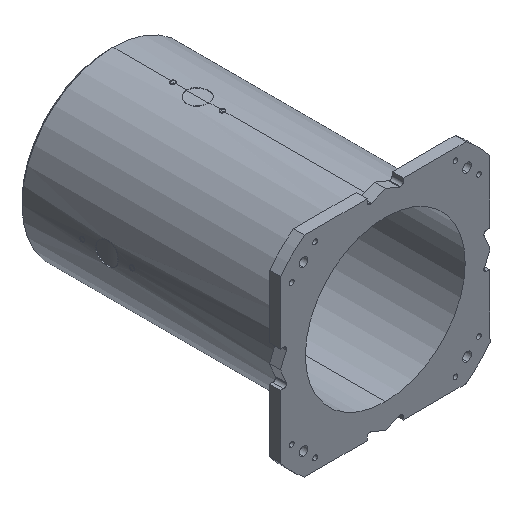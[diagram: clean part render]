
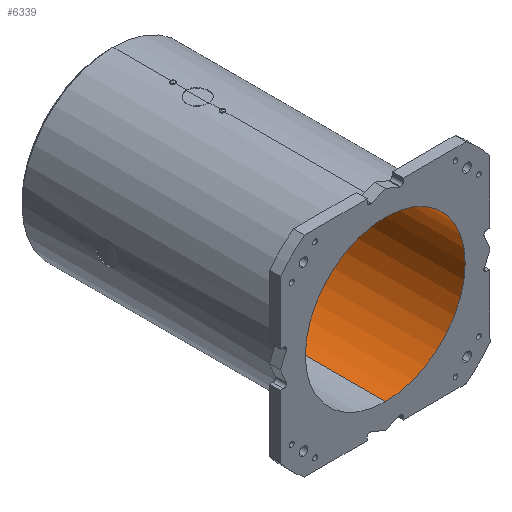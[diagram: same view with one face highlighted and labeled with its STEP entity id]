
A CAD part, isometric view. The second image highlights one B-rep face of the part: STEP entity #6339.
In plain terms, the highlighted cylindrical face has radius 145 mm (diameter 290 mm), a partial arc.
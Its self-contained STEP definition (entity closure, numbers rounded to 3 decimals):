
#155 = DIRECTION ( 'NONE',  ( 0., 1., 0. ) ) ;
#903 = LINE ( 'NONE', #1549, #3300 ) ;
#1008 = VERTEX_POINT ( 'NONE', #4379 ) ;
#1400 = ORIENTED_EDGE ( 'NONE', *, *, #6282, .T. ) ;
#1520 = VERTEX_POINT ( 'NONE', #8229 ) ;
#1549 = CARTESIAN_POINT ( 'NONE',  ( 0., 0., -145. ) ) ;
#2179 = CARTESIAN_POINT ( 'NONE',  ( 0., 482., 145. ) ) ;
#2633 = DIRECTION ( 'NONE',  ( 0., 0., 1. ) ) ;
#2685 = CARTESIAN_POINT ( 'NONE',  ( 0., 0., 0. ) ) ;
#3300 = VECTOR ( 'NONE', #8366, 1000. ) ;
#3434 = FACE_OUTER_BOUND ( 'NONE', #5997, .T. ) ;
#3755 = VECTOR ( 'NONE', #4783, 1000. ) ;
#3981 = CARTESIAN_POINT ( 'NONE',  ( 0., 0., 145. ) ) ;
#4094 = AXIS2_PLACEMENT_3D ( 'NONE', #4201, #7958, #2633 ) ;
#4201 = CARTESIAN_POINT ( 'NONE',  ( 0., 482., 0. ) ) ;
#4248 = DIRECTION ( 'NONE',  ( 0., 1., 0. ) ) ;
#4379 = CARTESIAN_POINT ( 'NONE',  ( 0., 0., 145. ) ) ;
#4783 = DIRECTION ( 'NONE',  ( 0., 1., 0. ) ) ;
#5111 = CIRCLE ( 'NONE', #5755, 145. ) ;
#5577 = EDGE_CURVE ( 'NONE', #1008, #6515, #9226, .T. ) ;
#5754 = DIRECTION ( 'NONE',  ( 0., 0., 1. ) ) ;
#5755 = AXIS2_PLACEMENT_3D ( 'NONE', #7021, #155, #9290 ) ;
#5938 = ORIENTED_EDGE ( 'NONE', *, *, #8425, .F. ) ;
#5951 = VERTEX_POINT ( 'NONE', #9776 ) ;
#5997 = EDGE_LOOP ( 'NONE', ( #6185, #5938, #7716, #1400 ) ) ;
#6185 = ORIENTED_EDGE ( 'NONE', *, *, #7502, .F. ) ;
#6282 = EDGE_CURVE ( 'NONE', #6515, #1520, #7779, .T. ) ;
#6339 = ADVANCED_FACE ( 'NONE', ( #3434 ), #6513, .F. ) ;
#6513 = CYLINDRICAL_SURFACE ( 'NONE', #8099, 145. ) ;
#6515 = VERTEX_POINT ( 'NONE', #2179 ) ;
#7021 = CARTESIAN_POINT ( 'NONE',  ( 0., 0., 0. ) ) ;
#7502 = EDGE_CURVE ( 'NONE', #5951, #1520, #903, .T. ) ;
#7716 = ORIENTED_EDGE ( 'NONE', *, *, #5577, .T. ) ;
#7779 = CIRCLE ( 'NONE', #4094, 145. ) ;
#7958 = DIRECTION ( 'NONE',  ( 0., 1., 0. ) ) ;
#8099 = AXIS2_PLACEMENT_3D ( 'NONE', #2685, #4248, #5754 ) ;
#8229 = CARTESIAN_POINT ( 'NONE',  ( 0., 482., -145. ) ) ;
#8366 = DIRECTION ( 'NONE',  ( 0., 1., 0. ) ) ;
#8425 = EDGE_CURVE ( 'NONE', #1008, #5951, #5111, .T. ) ;
#9226 = LINE ( 'NONE', #3981, #3755 ) ;
#9290 = DIRECTION ( 'NONE',  ( 0., 0., 1. ) ) ;
#9776 = CARTESIAN_POINT ( 'NONE',  ( 0., 0., -145. ) ) ;
